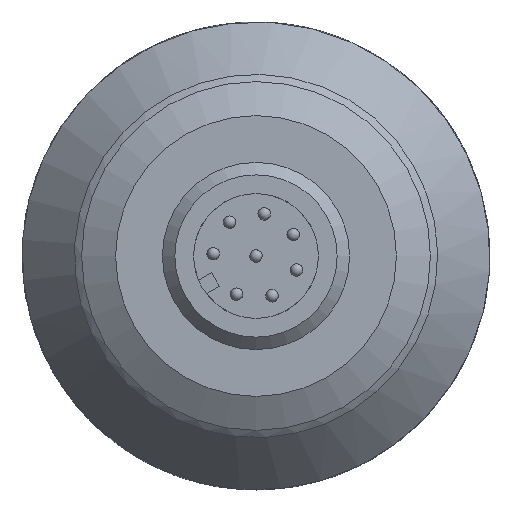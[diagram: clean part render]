
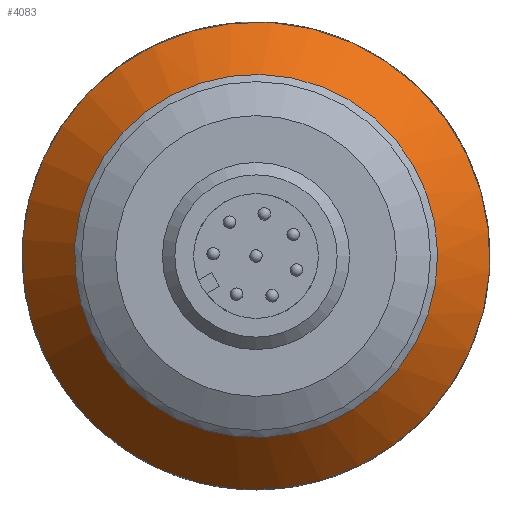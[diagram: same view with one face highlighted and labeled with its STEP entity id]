
A CAD part, front view. The second image highlights one B-rep face of the part: STEP entity #4083.
In plain terms, the highlighted conical face has half-angle 40 degrees and reference radius 15 mm.
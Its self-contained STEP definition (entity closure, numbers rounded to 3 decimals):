
#80=CIRCLE('',#4314,15.);
#81=CIRCLE('',#4316,11.644);
#139=CONICAL_SURFACE('',#4315,15.,0.698);
#624=ORIENTED_EDGE('',*,*,#1374,.T.);
#625=ORIENTED_EDGE('',*,*,#1373,.F.);
#1373=EDGE_CURVE('',#1753,#1753,#80,.T.);
#1374=EDGE_CURVE('',#1754,#1754,#81,.T.);
#1753=VERTEX_POINT('',#5615);
#1754=VERTEX_POINT('',#5618);
#2236=EDGE_LOOP('',(#624));
#2237=EDGE_LOOP('',(#625));
#2494=FACE_BOUND('',#2236,.T.);
#2495=FACE_BOUND('',#2237,.T.);
#4083=ADVANCED_FACE('',(#2494,#2495),#139,.T.);
#4314=AXIS2_PLACEMENT_3D('',#5614,#4613,#4614);
#4315=AXIS2_PLACEMENT_3D('',#5616,#4615,#4616);
#4316=AXIS2_PLACEMENT_3D('',#5617,#4617,#4618);
#4613=DIRECTION('',(0.,1.,0.));
#4614=DIRECTION('',(-0.998,0.,0.069));
#4615=DIRECTION('',(0.,1.,0.));
#4616=DIRECTION('',(-0.998,0.,0.069));
#4617=DIRECTION('',(0.,1.,0.));
#4618=DIRECTION('',(-0.998,0.,0.069));
#5614=CARTESIAN_POINT('',(0.,-33.3,0.));
#5615=CARTESIAN_POINT('',(-14.964,-33.3,1.032));
#5616=CARTESIAN_POINT('',(0.,-33.3,0.));
#5617=CARTESIAN_POINT('',(0.,-37.3,0.));
#5618=CARTESIAN_POINT('',(-11.616,-37.3,0.801));
